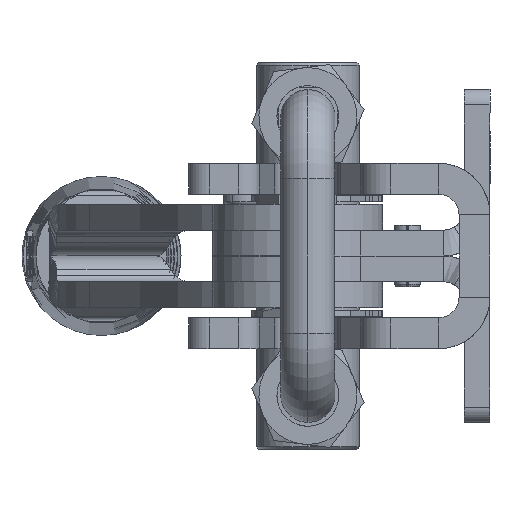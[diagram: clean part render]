
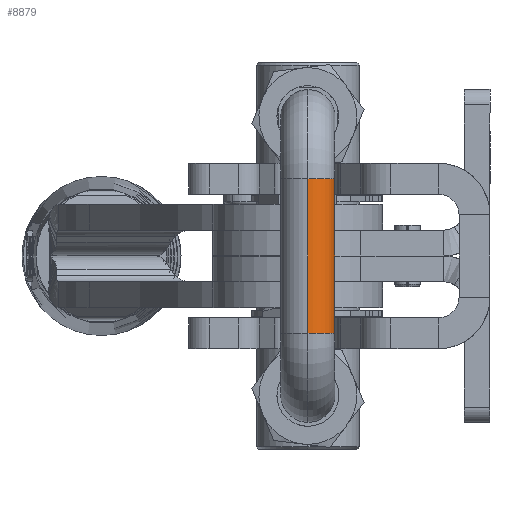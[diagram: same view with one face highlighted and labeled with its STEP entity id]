
A CAD part, left-side view. The second image highlights one B-rep face of the part: STEP entity #8879.
In plain terms, the highlighted cylindrical face has radius 5.25 mm (diameter 10.5 mm), a partial arc.
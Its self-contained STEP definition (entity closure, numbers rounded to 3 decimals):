
#522 = LINE ( 'NONE', #21436, #13432 ) ;
#646 = DIRECTION ( 'NONE',  ( 0., 0., 1. ) ) ;
#1584 = DIRECTION ( 'NONE',  ( -1., 0., 0. ) ) ;
#2070 = ORIENTED_EDGE ( 'NONE', *, *, #14983, .F. ) ;
#4545 = EDGE_CURVE ( 'NONE', #15733, #6432, #8642, .T. ) ;
#4667 = CARTESIAN_POINT ( 'NONE',  ( -5.25, 0., -15. ) ) ;
#5004 = DIRECTION ( 'NONE',  ( 1., 0., 0. ) ) ;
#5336 = AXIS2_PLACEMENT_3D ( 'NONE', #14769, #22618, #1584 ) ;
#6423 = EDGE_CURVE ( 'NONE', #15733, #14585, #18558, .T. ) ;
#6432 = VERTEX_POINT ( 'NONE', #16524 ) ;
#6868 = CYLINDRICAL_SURFACE ( 'NONE', #22057, 5.25 ) ;
#7439 = CARTESIAN_POINT ( 'NONE',  ( 5.25, 0., -15. ) ) ;
#8486 = ORIENTED_EDGE ( 'NONE', *, *, #4545, .T. ) ;
#8642 = LINE ( 'NONE', #4667, #21929 ) ;
#8879 = ADVANCED_FACE ( 'NONE', ( #16429 ), #6868, .T. ) ;
#9431 = DIRECTION ( 'NONE',  ( 0., 0., -1. ) ) ;
#10649 = DIRECTION ( 'NONE',  ( 0., 0., 1. ) ) ;
#11204 = ORIENTED_EDGE ( 'NONE', *, *, #23231, .T. ) ;
#12834 = DIRECTION ( 'NONE',  ( -1., 0., 0. ) ) ;
#13432 = VECTOR ( 'NONE', #646, 1000. ) ;
#14546 = CARTESIAN_POINT ( 'NONE',  ( 0., 0., -15. ) ) ;
#14585 = VERTEX_POINT ( 'NONE', #7439 ) ;
#14769 = CARTESIAN_POINT ( 'NONE',  ( 0., 0., -15. ) ) ;
#14842 = EDGE_LOOP ( 'NONE', ( #14904, #8486, #11204, #2070 ) ) ;
#14904 = ORIENTED_EDGE ( 'NONE', *, *, #6423, .F. ) ;
#14983 = EDGE_CURVE ( 'NONE', #14585, #16569, #522, .T. ) ;
#15733 = VERTEX_POINT ( 'NONE', #17522 ) ;
#16429 = FACE_OUTER_BOUND ( 'NONE', #14842, .T. ) ;
#16524 = CARTESIAN_POINT ( 'NONE',  ( -5.25, 0., 15. ) ) ;
#16569 = VERTEX_POINT ( 'NONE', #23909 ) ;
#16753 = CIRCLE ( 'NONE', #22323, 5.25 ) ;
#17522 = CARTESIAN_POINT ( 'NONE',  ( -5.25, 0., -15. ) ) ;
#18558 = CIRCLE ( 'NONE', #5336, 5.25 ) ;
#21436 = CARTESIAN_POINT ( 'NONE',  ( 5.25, 0., -15. ) ) ;
#21929 = VECTOR ( 'NONE', #10649, 1000. ) ;
#22057 = AXIS2_PLACEMENT_3D ( 'NONE', #14546, #22150, #5004 ) ;
#22150 = DIRECTION ( 'NONE',  ( 0., 0., 1. ) ) ;
#22323 = AXIS2_PLACEMENT_3D ( 'NONE', #22355, #9431, #12834 ) ;
#22355 = CARTESIAN_POINT ( 'NONE',  ( 0., 0., 15. ) ) ;
#22618 = DIRECTION ( 'NONE',  ( 0., 0., -1. ) ) ;
#23231 = EDGE_CURVE ( 'NONE', #6432, #16569, #16753, .T. ) ;
#23909 = CARTESIAN_POINT ( 'NONE',  ( 5.25, 0., 15. ) ) ;
